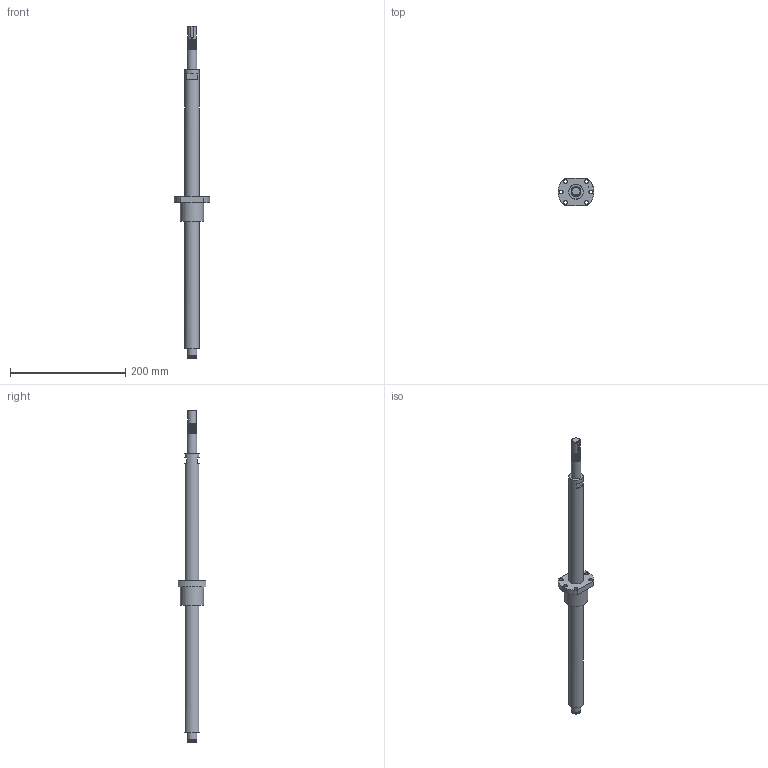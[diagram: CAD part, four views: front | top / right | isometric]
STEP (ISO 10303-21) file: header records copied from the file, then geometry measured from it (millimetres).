
FILE_DESCRIPTION(/* description */ (''),/* implementation_level */ '2;1');
FILE_NAME(/* name */ 'BSG279_asm1.stp',/* time_stamp */ '2017-01-12T10:10:42+08:00',/* author */ (''),/* organization */ (''),/* preprocessor_version */ 'ST-DEVELOPER v15',/* originating_system */ 'SIEMENS PLM Software NX 8.5',/* authorisation */ '');
FILE_SCHEMA (('AUTOMOTIVE_DESIGN { 1 0 10303 214 3 1 1 1 }'));
Length unit declared in the file: millimetre
Products named in the file (3): 01; BSG279; BSG279_asm1
Assembly tree (2 placements, depth 2):
  BSG279_asm1
    BSG279
    01
Bounding box: 61.8 x 48 x 575 mm (x, y, z)
Volume: 43546.8 mm3; surface area: 59028.3 mm2
Topology: 1 solids, 2 shells, 64 faces, 163 edges, 111 vertices
Faces by surface type: cylinder 36, plane 24, bspline 2, cone 2
Full cylindrical faces by diameter (mm): 5 x1, 6 x1, 6.6 x6, 15 x1, 16.2 x1, 17 x19, 25 x2, 40 x1
Entity records: 4684 total; most frequent: CARTESIAN_POINT 3601, DIRECTION 212, ORIENTED_EDGE 170, AXIS2_PLACEMENT_3D 92, EDGE_LOOP 90, EDGE_CURVE 85, FACE_BOUND 69, VERTEX_POINT 67
